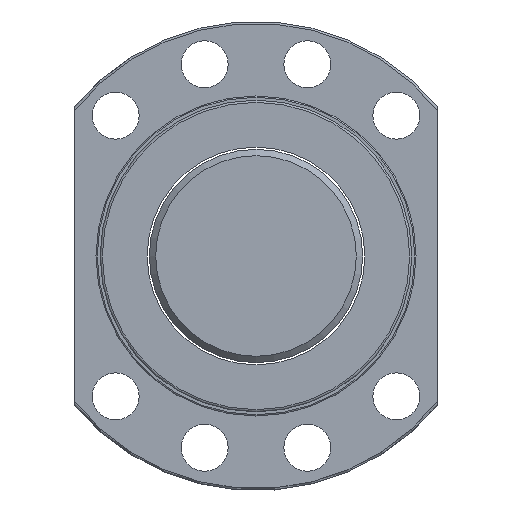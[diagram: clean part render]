
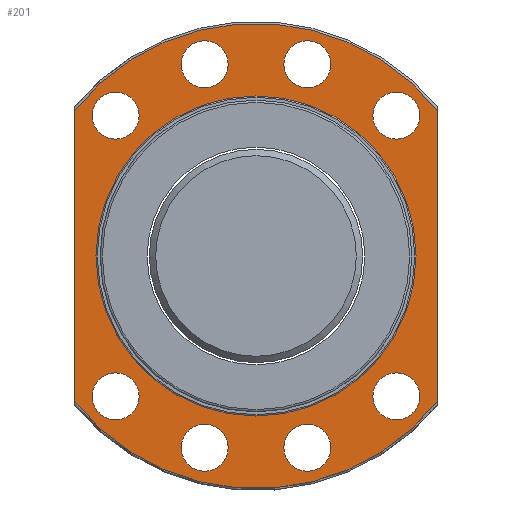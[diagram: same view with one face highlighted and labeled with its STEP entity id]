
A CAD part, left-side view. The second image highlights one B-rep face of the part: STEP entity #201.
In plain terms, the highlighted planar face has unit normal (-1, 0, 0).
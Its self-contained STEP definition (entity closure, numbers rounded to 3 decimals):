
#109=LINE('',#1186,#117);
#110=LINE('',#1187,#118);
#117=VECTOR('',#871,1.);
#118=VECTOR('',#872,1.);
#154=PLANE('',#717);
#174=FACE_OUTER_BOUND('',#342,.T.);
#201=ADVANCED_FACE('',(#254,#255,#256,#257,#258,#259,#260,#261,#262,#174),
#154,.F.);
#254=FACE_BOUND('',#333,.T.);
#255=FACE_BOUND('',#334,.T.);
#256=FACE_BOUND('',#335,.T.);
#257=FACE_BOUND('',#336,.T.);
#258=FACE_BOUND('',#337,.T.);
#259=FACE_BOUND('',#338,.T.);
#260=FACE_BOUND('',#339,.T.);
#261=FACE_BOUND('',#340,.T.);
#262=FACE_BOUND('',#341,.T.);
#333=EDGE_LOOP('',(#438));
#334=EDGE_LOOP('',(#439));
#335=EDGE_LOOP('',(#440));
#336=EDGE_LOOP('',(#441));
#337=EDGE_LOOP('',(#442));
#338=EDGE_LOOP('',(#443));
#339=EDGE_LOOP('',(#444));
#340=EDGE_LOOP('',(#445));
#341=EDGE_LOOP('',(#446));
#342=EDGE_LOOP('',(#447,#448,#449,#450));
#438=ORIENTED_EDGE('',*,*,#593,.T.);
#439=ORIENTED_EDGE('',*,*,#594,.T.);
#440=ORIENTED_EDGE('',*,*,#595,.T.);
#441=ORIENTED_EDGE('',*,*,#596,.T.);
#442=ORIENTED_EDGE('',*,*,#597,.T.);
#443=ORIENTED_EDGE('',*,*,#598,.T.);
#444=ORIENTED_EDGE('',*,*,#599,.T.);
#445=ORIENTED_EDGE('',*,*,#600,.T.);
#446=ORIENTED_EDGE('',*,*,#601,.T.);
#447=ORIENTED_EDGE('',*,*,#602,.F.);
#448=ORIENTED_EDGE('',*,*,#587,.F.);
#449=ORIENTED_EDGE('',*,*,#603,.T.);
#450=ORIENTED_EDGE('',*,*,#591,.F.);
#530=VERTEX_POINT('',#1085);
#531=VERTEX_POINT('',#1086);
#532=VERTEX_POINT('',#1145);
#533=VERTEX_POINT('',#1147);
#534=VERTEX_POINT('',#1169);
#535=VERTEX_POINT('',#1171);
#536=VERTEX_POINT('',#1173);
#537=VERTEX_POINT('',#1175);
#538=VERTEX_POINT('',#1177);
#539=VERTEX_POINT('',#1179);
#540=VERTEX_POINT('',#1181);
#541=VERTEX_POINT('',#1183);
#542=VERTEX_POINT('',#1185);
#587=EDGE_CURVE('',#530,#531,#638,.T.);
#591=EDGE_CURVE('',#532,#533,#639,.T.);
#593=EDGE_CURVE('',#534,#534,#640,.T.);
#594=EDGE_CURVE('',#535,#535,#641,.T.);
#595=EDGE_CURVE('',#536,#536,#642,.T.);
#596=EDGE_CURVE('',#537,#537,#643,.T.);
#597=EDGE_CURVE('',#538,#538,#644,.T.);
#598=EDGE_CURVE('',#539,#539,#645,.T.);
#599=EDGE_CURVE('',#540,#540,#646,.T.);
#600=EDGE_CURVE('',#541,#541,#647,.T.);
#601=EDGE_CURVE('',#542,#542,#648,.T.);
#602=EDGE_CURVE('',#531,#532,#109,.T.);
#603=EDGE_CURVE('',#530,#533,#110,.T.);
#638=CIRCLE('',#704,54.5);
#639=CIRCLE('',#706,54.5);
#640=CIRCLE('',#708,37.5);
#641=CIRCLE('',#709,5.5);
#642=CIRCLE('',#710,5.5);
#643=CIRCLE('',#711,5.5);
#644=CIRCLE('',#712,5.5);
#645=CIRCLE('',#713,5.5);
#646=CIRCLE('',#714,5.5);
#647=CIRCLE('',#715,5.5);
#648=CIRCLE('',#716,5.5);
#704=AXIS2_PLACEMENT_3D('',#1084,#845,#846);
#706=AXIS2_PLACEMENT_3D('',#1146,#849,#850);
#708=AXIS2_PLACEMENT_3D('',#1168,#853,#854);
#709=AXIS2_PLACEMENT_3D('',#1170,#855,#856);
#710=AXIS2_PLACEMENT_3D('',#1172,#857,#858);
#711=AXIS2_PLACEMENT_3D('',#1174,#859,#860);
#712=AXIS2_PLACEMENT_3D('',#1176,#861,#862);
#713=AXIS2_PLACEMENT_3D('',#1178,#863,#864);
#714=AXIS2_PLACEMENT_3D('',#1180,#865,#866);
#715=AXIS2_PLACEMENT_3D('',#1182,#867,#868);
#716=AXIS2_PLACEMENT_3D('',#1184,#869,#870);
#717=AXIS2_PLACEMENT_3D('',#1188,#873,#874);
#845=DIRECTION('',(1.,0.,0.));
#846=DIRECTION('',(0.,1.,0.));
#849=DIRECTION('',(1.,0.,0.));
#850=DIRECTION('',(0.,1.,0.));
#853=DIRECTION('',(1.,0.,0.));
#854=DIRECTION('',(0.,1.,0.));
#855=DIRECTION('',(1.,0.,0.));
#856=DIRECTION('',(0.,1.,0.));
#857=DIRECTION('',(1.,0.,0.));
#858=DIRECTION('',(0.,1.,0.));
#859=DIRECTION('',(1.,0.,0.));
#860=DIRECTION('',(0.,1.,0.));
#861=DIRECTION('',(1.,0.,0.));
#862=DIRECTION('',(0.,1.,0.));
#863=DIRECTION('',(1.,0.,0.));
#864=DIRECTION('',(0.,1.,0.));
#865=DIRECTION('',(1.,0.,0.));
#866=DIRECTION('',(0.,1.,0.));
#867=DIRECTION('',(1.,0.,0.));
#868=DIRECTION('',(0.,1.,0.));
#869=DIRECTION('',(1.,0.,0.));
#870=DIRECTION('',(0.,1.,0.));
#871=DIRECTION('',(0.,0.,1.));
#872=DIRECTION('',(0.,0.,1.));
#873=DIRECTION('',(1.,0.,0.));
#874=DIRECTION('',(0.,1.,0.));
#1084=CARTESIAN_POINT('',(-21.825,0.,0.));
#1085=CARTESIAN_POINT('',(-21.825,-42.5,-34.117));
#1086=CARTESIAN_POINT('',(-21.825,42.5,-34.117));
#1145=CARTESIAN_POINT('',(-21.825,42.5,34.117));
#1146=CARTESIAN_POINT('',(-21.825,0.,0.));
#1147=CARTESIAN_POINT('',(-21.825,-42.5,34.117));
#1168=CARTESIAN_POINT('',(-21.825,0.,0.));
#1169=CARTESIAN_POINT('',(-21.825,37.5,0.));
#1170=CARTESIAN_POINT('',(-21.825,12.035,44.916));
#1171=CARTESIAN_POINT('',(-21.825,17.535,44.916));
#1172=CARTESIAN_POINT('',(-21.825,-12.035,44.916));
#1173=CARTESIAN_POINT('',(-21.825,-6.535,44.916));
#1174=CARTESIAN_POINT('',(-21.825,-12.035,-44.916));
#1175=CARTESIAN_POINT('',(-21.825,-6.535,-44.916));
#1176=CARTESIAN_POINT('',(-21.825,12.035,-44.916));
#1177=CARTESIAN_POINT('',(-21.825,17.535,-44.916));
#1178=CARTESIAN_POINT('',(-21.825,-32.88,32.881));
#1179=CARTESIAN_POINT('',(-21.825,-27.38,32.881));
#1180=CARTESIAN_POINT('',(-21.825,32.881,32.881));
#1181=CARTESIAN_POINT('',(-21.825,38.381,32.881));
#1182=CARTESIAN_POINT('',(-21.825,-32.88,-32.881));
#1183=CARTESIAN_POINT('',(-21.825,-27.38,-32.881));
#1184=CARTESIAN_POINT('',(-21.825,32.881,-32.881));
#1185=CARTESIAN_POINT('',(-21.825,38.381,-32.881));
#1186=CARTESIAN_POINT('',(-21.825,42.5,0.));
#1187=CARTESIAN_POINT('',(-21.825,-42.5,0.));
#1188=CARTESIAN_POINT('',(-21.825,46.,0.));
